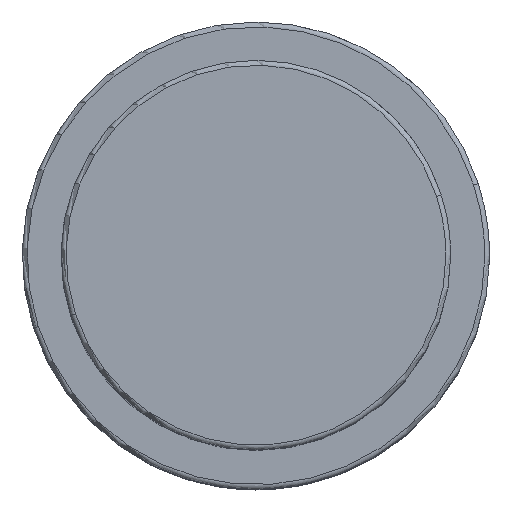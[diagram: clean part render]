
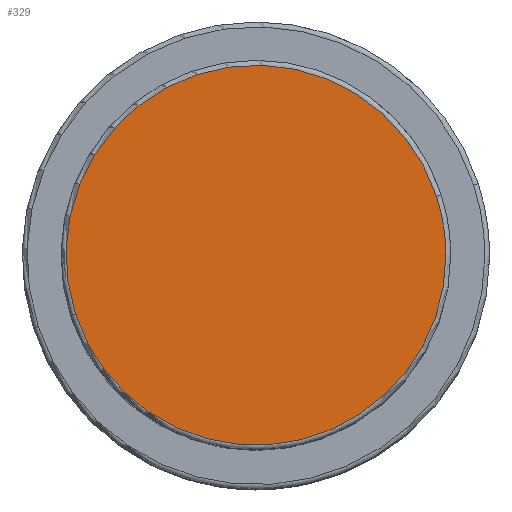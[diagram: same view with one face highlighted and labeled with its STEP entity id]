
A CAD part, top view. The second image highlights one B-rep face of the part: STEP entity #329.
In plain terms, the highlighted planar face has unit normal (0, 0, 1).
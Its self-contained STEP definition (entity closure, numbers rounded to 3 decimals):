
#295=CARTESIAN_POINT('',(19.5,0.0,48.5));
#296=VERTEX_POINT('',#295);
#297=CARTESIAN_POINT('',(18.546,6.026,48.5));
#298=VERTEX_POINT('',#297);
#299=CARTESIAN_POINT('',(0.0,0.0,48.5));
#300=DIRECTION('',(0.0,0.0,1.0));
#301=DIRECTION('',(1.0,0.0,0.0));
#302=AXIS2_PLACEMENT_3D('',#299,#300,#301);
#303=CIRCLE('',#302,19.5);
#304=EDGE_CURVE('no 841',#296,#298,#303,.T.);
#305=ORIENTED_EDGE('',*,*,#304,.T.);
#306=CARTESIAN_POINT('',(-18.546,-6.026,48.5));
#307=VERTEX_POINT('',#306);
#308=CARTESIAN_POINT('',(0.0,0.0,48.5));
#309=DIRECTION('',(0.0,0.0,1.0));
#310=DIRECTION('',(1.0,0.0,0.0));
#311=AXIS2_PLACEMENT_3D('',#308,#309,#310);
#312=CIRCLE('',#311,19.5);
#313=EDGE_CURVE('no 847',#298,#307,#312,.T.);
#314=ORIENTED_EDGE('',*,*,#313,.T.);
#315=CARTESIAN_POINT('',(0.0,0.0,48.5));
#316=DIRECTION('',(0.0,0.0,1.0));
#317=DIRECTION('',(1.0,0.0,0.0));
#318=AXIS2_PLACEMENT_3D('',#315,#316,#317);
#319=CIRCLE('',#318,19.5);
#320=EDGE_CURVE('no 851',#307,#296,#319,.T.);
#321=ORIENTED_EDGE('',*,*,#320,.T.);
#322=EDGE_LOOP('',(#305,#314,#321));
#323=FACE_OUTER_BOUND('',#322,.T.);
#324=CARTESIAN_POINT('',(0.0,0.0,48.5));
#325=DIRECTION('',(0.0,0.0,1.0));
#326=DIRECTION('',(1.0,0.0,0.0));
#327=AXIS2_PLACEMENT_3D('',#324,#325,#326);
#328=PLANE('',#327);
#329=ADVANCED_FACE('no 832',(#323),#328,.T.);
